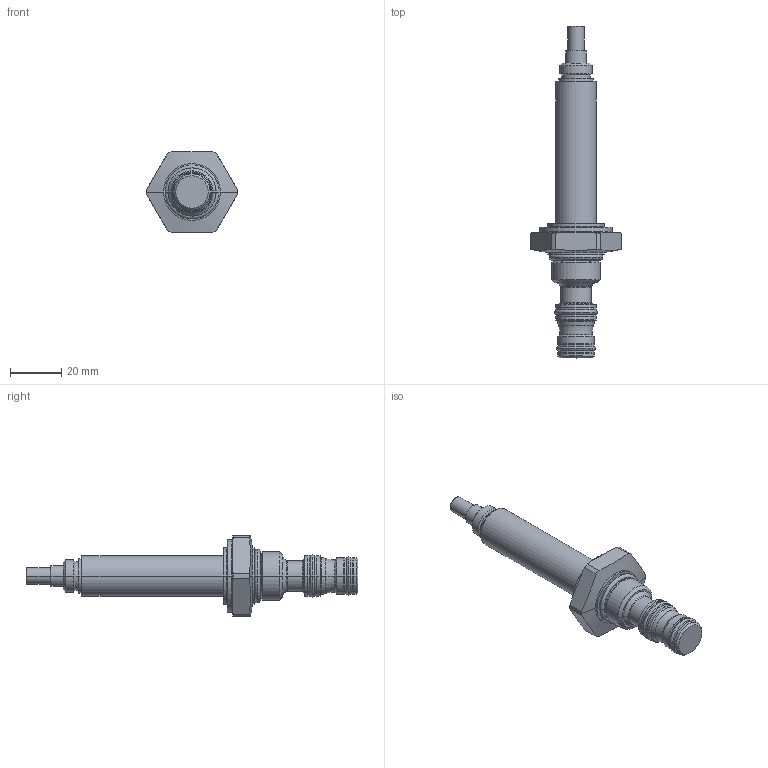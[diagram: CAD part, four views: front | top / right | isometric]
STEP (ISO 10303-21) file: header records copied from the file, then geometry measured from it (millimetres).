
FILE_DESCRIPTION((''),'2;1');
FILE_NAME('PRT0015','2009-03-04T',('jcs'),(''),'PRO/ENGINEER BY PARAMETRIC TECHNOLOGY CORPORATION, 2008010','PRO/ENGINEER BY PARAMETRIC TECHNOLOGY CORPORATION, 2008010','');
FILE_SCHEMA(('CONFIG_CONTROL_DESIGN'));
Length unit declared in the file: inch
Products named in the file (1): PRT0015
Bounding box: 35.69 x 130.18 x 31.75 mm (x, y, z)
Volume: 28732.6 mm3; surface area: 9848.2 mm2
Topology: 4 solids, 4 shells, 181 faces, 378 edges, 220 vertices
Faces by surface type: cylinder 60, cone 44, plane 29, torus 24, revolution 24
Entity records: 5334 total; most frequent: CARTESIAN_POINT 1341, DIRECTION 900, ORIENTED_EDGE 756, AXIS2_PLACEMENT_3D 383, EDGE_CURVE 378, CIRCLE 226, VERTEX_POINT 220, EDGE_LOOP 202
